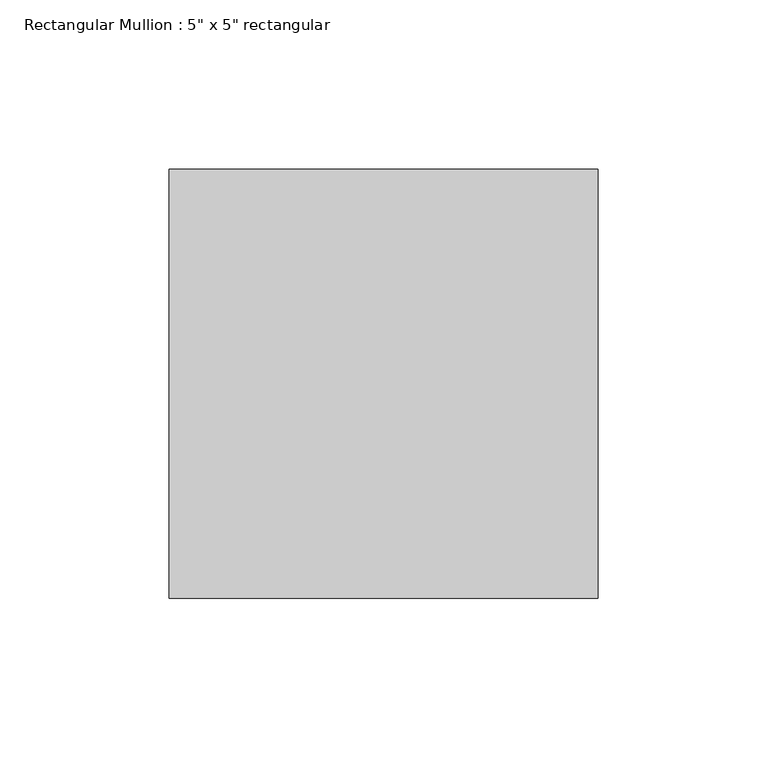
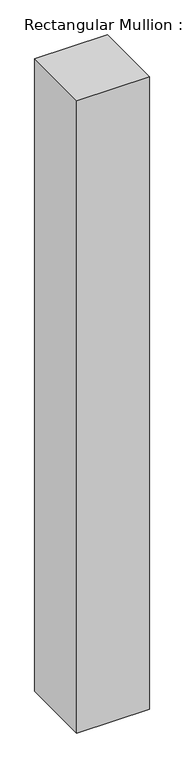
"""IFC4 building model written with IfcOpenShell, lengths in millimetres: member geometry."""

from ifc_helpers import new_model, si_unit, frame, origin, place, context, project, spatial, polyline, outline, extrude, source, transform, mapped, element, save


def member_ab1f25f9(model_context):
    return source(origin(), model_context, "Body", "SweptSolid", [
        extrude(outline(polyline([(63.5, 63.5), (63.5, -63.5), (-63.5, -63.5), (-63.5, 63.5), (63.5, 63.5)])), frame((0.0, 0.0, -1168.4), z_axis=(0.0, 0.0, 1.0), x_axis=(1.0, 0.0, 0.0)), (0.0, 0.0, 1.0), 1168.4),
    ])


if __name__ == "__main__":
    model = new_model("IFC4")
    model_context = context("Model", 3, world=origin())
    ifc_project = project(units=[si_unit("LENGTHUNIT", "METRE", prefix="MILLI")], contexts=[model_context])
    site = spatial("IfcSite", under=ifc_project)
    building = spatial("IfcBuilding", under=site)
    placement = place(None, origin())
    member_shape = member_ab1f25f9(model_context)
    element("IfcMember", 1, ObjectType="Rectangular Mullion : 5\" x 5\" rectangular", at=placement, inside=building, context=model_context, shape_type="MappedRepresentation", body=[
        mapped(member_shape, transform((0.0, 0.0, 0.0), x_axis=(1.0, 0.0, 0.0), y_axis=(0.0, 1.0, 0.0), z_axis=(0.0, 0.0, 1.0))),
    ])
    save(model, "model.ifc")
